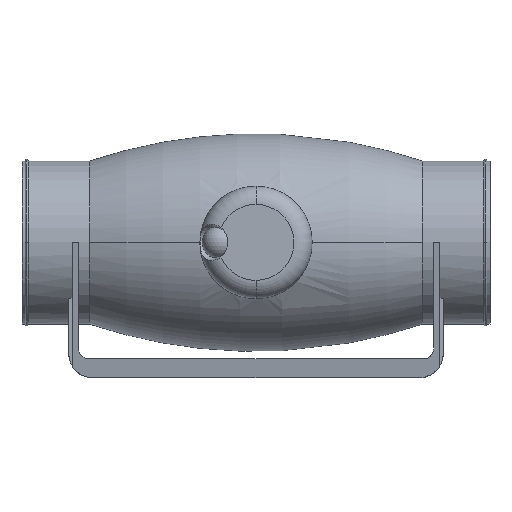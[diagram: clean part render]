
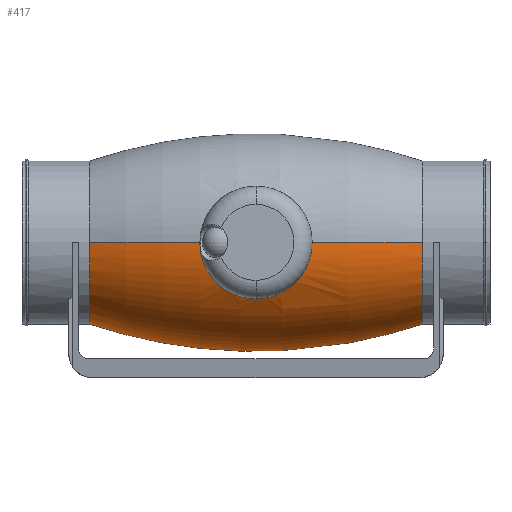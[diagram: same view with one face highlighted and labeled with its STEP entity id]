
A CAD part, top view. The second image highlights one B-rep face of the part: STEP entity #417.
In plain terms, the highlighted toroidal (fillet/blend) face has major radius 499.93 mm and minor radius 631.93 mm.
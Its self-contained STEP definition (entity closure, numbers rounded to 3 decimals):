
#417=ADVANCED_FACE('',(#917),#918,.T.);
#917=FACE_OUTER_BOUND('',#1487,.T.);
#918=TOROIDAL_SURFACE('',#1488,-499.93,631.93);
#1487=EDGE_LOOP('',(#2756,#2757,#2758,#2759,#2760,#2761,#2762,#2763));
#1488=AXIS2_PLACEMENT_3D('',#2764,#2765,#2766);
#2756=ORIENTED_EDGE('',*,*,#3532,.T.);
#2757=ORIENTED_EDGE('',*,*,#3654,.T.);
#2758=ORIENTED_EDGE('',*,*,#3538,.T.);
#2759=ORIENTED_EDGE('',*,*,#3688,.T.);
#2760=ORIENTED_EDGE('',*,*,#3583,.T.);
#2761=ORIENTED_EDGE('',*,*,#3535,.T.);
#2762=ORIENTED_EDGE('',*,*,#3579,.T.);
#2763=ORIENTED_EDGE('',*,*,#3732,.T.);
#2764=CARTESIAN_POINT('',(0.0,0.0,0.0));
#2765=DIRECTION('',(-1.0,0.0,0.));
#2766=DIRECTION('',(0.,0.0,1.0));
#3532=EDGE_CURVE('',#4255,#4256,#4257,.T.);
#3535=EDGE_CURVE('',#4262,#4260,#4263,.T.);
#3538=EDGE_CURVE('',#4268,#4266,#4269,.T.);
#3579=EDGE_CURVE('',#4260,#4342,#4344,.T.);
#3583=EDGE_CURVE('',#4349,#4262,#4350,.T.);
#3654=EDGE_CURVE('',#4256,#4268,#4466,.T.);
#3688=EDGE_CURVE('',#4266,#4349,#4512,.T.);
#3732=EDGE_CURVE('',#4342,#4255,#4571,.T.);
#4255=VERTEX_POINT('',#5316);
#4256=VERTEX_POINT('',#5317);
#4257=CIRCLE('',#5318,631.93);
#4260=VERTEX_POINT('',#5321);
#4262=VERTEX_POINT('',#5323);
#4263=CIRCLE('',#5324,631.93);
#4266=VERTEX_POINT('',#5327);
#4268=VERTEX_POINT('',#5329);
#4269=CIRCLE('',#5330,631.93);
#4342=VERTEX_POINT('',#5482);
#4344=CIRCLE('',#5485,99.0);
#4349=VERTEX_POINT('',#5492);
#4350=CIRCLE('',#5493,99.0);
#4466=B_SPLINE_CURVE_WITH_KNOTS('',3,(#5748,#5749,#5750,#5751,#5752,#5753,#5754,#5755,#5756,#5757,#5758,#5759,#5760,#5761,#5762,#5763,#5764,#5765,#5766,#5767,#5768,#5769,#5770,#5771,#5772,#5773,#5774,#5775,#5776,#5777,#5778,#5779,#5780,#5781,#5782,#5783,#5784,#5785,#5786,#5787,#5788,#5789,#5790,#5791,#5792,#5793,#5794,#5795,#5796,#5797,#5798,#5799,#5800,#5801,#5802,#5803,#5804,#5805,#5806,#5807,#5808),.UNSPECIFIED.,.F.,.F.,(4,3,3,3,3,3,3,3,3,3,3,3,3,3,3,3,3,3,3,3,4),(-434.143,-423.86,-416.743,-406.881,-397.42,-380.063,-359.69,-350.125,-342.393,-331.209,-324.551,-318.086,-307.059,-298.887,-286.492,-271.715,-259.708,-248.692,-239.528,-230.108,-217.081),.UNSPECIFIED.);
#4512=CIRCLE('',#5860,99.0);
#4571=CIRCLE('',#5941,99.0);
#5316=CARTESIAN_POINT('',(201.54,0.,99.0));
#5317=CARTESIAN_POINT('',(68.16,0.0,128.313));
#5318=AXIS2_PLACEMENT_3D('',#7013,#7014,#7015);
#5321=CARTESIAN_POINT('',(201.54,0.,-99.0));
#5323=CARTESIAN_POINT('',(-201.54,0.,-99.0));
#5324=AXIS2_PLACEMENT_3D('',#7022,#7023,#7024);
#5327=CARTESIAN_POINT('',(-201.54,0.,99.0));
#5329=CARTESIAN_POINT('',(-68.16,0.,128.313));
#5330=AXIS2_PLACEMENT_3D('',#7031,#7032,#7033);
#5482=CARTESIAN_POINT('',(201.54,-99.0,0.));
#5485=AXIS2_PLACEMENT_3D('',#7102,#7103,#7104);
#5492=CARTESIAN_POINT('',(-201.54,-99.0,0.));
#5493=AXIS2_PLACEMENT_3D('',#7107,#7108,#7109);
#5748=CARTESIAN_POINT('',(68.16,0.,128.313));
#5749=CARTESIAN_POINT('',(68.16,-3.427,128.313));
#5750=CARTESIAN_POINT('',(67.901,-6.853,128.203));
#5751=CARTESIAN_POINT('',(67.388,-10.233,127.988));
#5752=CARTESIAN_POINT('',(67.032,-12.573,127.839));
#5753=CARTESIAN_POINT('',(66.555,-14.891,127.64));
#5754=CARTESIAN_POINT('',(65.962,-17.169,127.396));
#5755=CARTESIAN_POINT('',(65.141,-20.325,127.058));
#5756=CARTESIAN_POINT('',(64.096,-23.411,126.632));
#5757=CARTESIAN_POINT('',(62.838,-26.404,126.134));
#5758=CARTESIAN_POINT('',(61.631,-29.276,125.656));
#5759=CARTESIAN_POINT('',(60.231,-32.056,125.113));
#5760=CARTESIAN_POINT('',(58.654,-34.72,124.522));
#5761=CARTESIAN_POINT('',(55.761,-39.608,123.439));
#5762=CARTESIAN_POINT('',(52.269,-44.108,122.198));
#5763=CARTESIAN_POINT('',(48.288,-48.104,120.936));
#5764=CARTESIAN_POINT('',(43.615,-52.795,119.456));
#5765=CARTESIAN_POINT('',(38.271,-56.793,117.951));
#5766=CARTESIAN_POINT('',(32.415,-59.959,116.662));
#5767=CARTESIAN_POINT('',(29.666,-61.445,116.057));
#5768=CARTESIAN_POINT('',(26.802,-62.748,115.499));
#5769=CARTESIAN_POINT('',(23.856,-63.849,115.016));
#5770=CARTESIAN_POINT('',(21.474,-64.739,114.625));
#5771=CARTESIAN_POINT('',(19.035,-65.498,114.281));
#5772=CARTESIAN_POINT('',(16.552,-66.12,113.996));
#5773=CARTESIAN_POINT('',(12.961,-67.019,113.583));
#5774=CARTESIAN_POINT('',(9.295,-67.626,113.295));
#5775=CARTESIAN_POINT('',(5.585,-67.931,113.15));
#5776=CARTESIAN_POINT('',(3.376,-68.112,113.064));
#5777=CARTESIAN_POINT('',(1.16,-68.186,113.028));
#5778=CARTESIAN_POINT('',(-1.053,-68.152,113.045));
#5779=CARTESIAN_POINT('',(-3.202,-68.119,113.06));
#5780=CARTESIAN_POINT('',(-5.35,-67.984,113.125));
#5781=CARTESIAN_POINT('',(-7.488,-67.747,113.237));
#5782=CARTESIAN_POINT('',(-11.134,-67.345,113.428));
#5783=CARTESIAN_POINT('',(-14.727,-66.65,113.755));
#5784=CARTESIAN_POINT('',(-18.24,-65.674,114.199));
#5785=CARTESIAN_POINT('',(-20.842,-64.951,114.528));
#5786=CARTESIAN_POINT('',(-23.393,-64.076,114.92));
#5787=CARTESIAN_POINT('',(-25.876,-63.057,115.361));
#5788=CARTESIAN_POINT('',(-29.641,-61.512,116.03));
#5789=CARTESIAN_POINT('',(-33.254,-59.634,116.813));
#5790=CARTESIAN_POINT('',(-36.659,-57.462,117.653));
#5791=CARTESIAN_POINT('',(-40.717,-54.873,118.655));
#5792=CARTESIAN_POINT('',(-44.486,-51.864,119.74));
#5793=CARTESIAN_POINT('',(-47.902,-48.489,120.815));
#5794=CARTESIAN_POINT('',(-50.679,-45.746,121.688));
#5795=CARTESIAN_POINT('',(-53.221,-42.763,122.554));
#5796=CARTESIAN_POINT('',(-55.492,-39.578,123.366));
#5797=CARTESIAN_POINT('',(-57.577,-36.655,124.11));
#5798=CARTESIAN_POINT('',(-59.435,-33.561,124.809));
#5799=CARTESIAN_POINT('',(-61.045,-30.32,125.432));
#5800=CARTESIAN_POINT('',(-62.384,-27.624,125.95));
#5801=CARTESIAN_POINT('',(-63.547,-24.835,126.414));
#5802=CARTESIAN_POINT('',(-64.522,-21.97,126.808));
#5803=CARTESIAN_POINT('',(-65.525,-19.026,127.214));
#5804=CARTESIAN_POINT('',(-66.329,-16.,127.547));
#5805=CARTESIAN_POINT('',(-66.922,-12.93,127.794));
#5806=CARTESIAN_POINT('',(-67.743,-8.685,128.136));
#5807=CARTESIAN_POINT('',(-68.16,-4.342,128.313));
#5808=CARTESIAN_POINT('',(-68.16,0.,128.313));
#5860=AXIS2_PLACEMENT_3D('',#7301,#7302,#7303);
#5941=AXIS2_PLACEMENT_3D('',#7344,#7345,#7346);
#7013=CARTESIAN_POINT('',(0.,0.,-499.93));
#7014=DIRECTION('',(0.,-1.0,0.));
#7015=DIRECTION('',(0.,0.,1.0));
#7022=CARTESIAN_POINT('',(0.,0.,499.93));
#7023=DIRECTION('',(0.,-1.0,0.));
#7024=DIRECTION('',(0.,0.,-1.0));
#7031=CARTESIAN_POINT('',(0.,0.,-499.93));
#7032=DIRECTION('',(0.,-1.0,0.));
#7033=DIRECTION('',(0.,0.,1.0));
#7102=CARTESIAN_POINT('',(201.54,0.0,0.));
#7103=DIRECTION('',(-1.0,0.0,0.));
#7104=DIRECTION('',(0.0,1.0,0.0));
#7107=CARTESIAN_POINT('',(-201.54,0.,0.));
#7108=DIRECTION('',(1.0,0.,0.0));
#7109=DIRECTION('',(0.,-1.0,0.));
#7301=CARTESIAN_POINT('',(-201.54,0.,0.));
#7302=DIRECTION('',(1.0,0.,0.0));
#7303=DIRECTION('',(0.,-1.0,0.));
#7344=CARTESIAN_POINT('',(201.54,0.0,0.));
#7345=DIRECTION('',(-1.0,0.0,0.));
#7346=DIRECTION('',(0.0,1.0,0.0));
